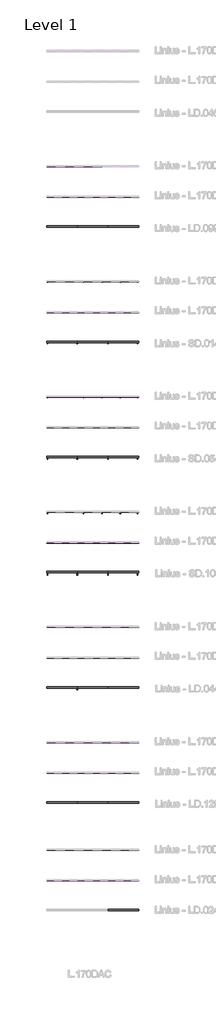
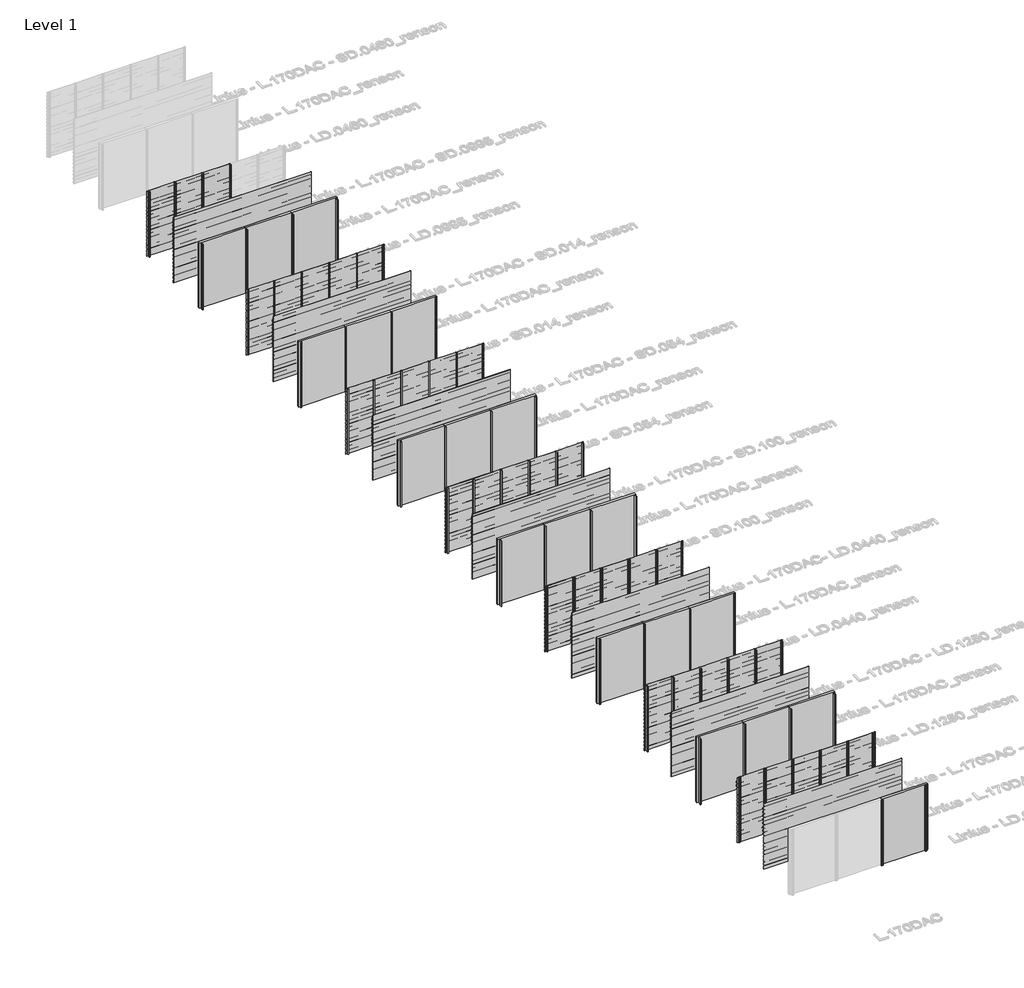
# One storey, part 3 of 121: 66 members, 59 plates.
"""IFC4 building model written with IfcOpenShell, lengths in millimetres."""

from ifc_helpers import new_model, si_unit, origin, origin_with_axes, place, context, project, spatial, polyline, outline, extrude, transform, mapped, element, save
from components import rectangular_mullion_fb497acc, rectangular_mullion_3facce28, rectangular_mullion_6cf2c509, rectangular_mullion_8b77bd57, rectangular_mullion_2c867e25, rectangular_mullion_7803f5c4, rectangular_mullion_82152e2f, rectangular_mullion_bd250e2e, rectangular_mullion_7b49c8f1, rectangular_mullion_2b84ad7e, rectangular_mullion_0fd695e7, rectangular_mullion_9b796d85, rectangular_mullion_dfb17e98, rectangular_mullion_6132f1f1, rectangular_mullion_8f153c19, rectangular_mullion_5b30f3fd, rectangular_mullion_5e0e8e0a, rectangular_mullion_d2d38772, rectangular_mullion_efb80f74, rectangular_mullion_aaa1fb1b, rectangular_mullion_ea9d012c, rectangular_mullion_c2c7736a, empty_system_panel_empty_90a97279

model = new_model("IFC4")

# Units and contexts
model_context = context("Model", 3, world=origin())
ifc_project = project(units=[si_unit("LENGTHUNIT", "METRE", prefix="MILLI")], contexts=[model_context])

# Site, building, storey
site = spatial("IfcSite", under=ifc_project)
building = spatial("IfcBuilding", under=site)
storey = spatial("IfcBuildingStorey", under=building, Name="Level 1", Elevation=0.0)

# Members
placement = place(None, origin())
rectangular_mullion_shape = rectangular_mullion_fb497acc(model_context)
element("IfcMember", 1, ObjectType="Rectangular Mullion : LD.0995_renson", at=placement, inside=storey, context=model_context, shape_type="MappedRepresentation", body=[
    mapped(rectangular_mullion_shape, transform((91866.6208097, 51483.0540136, 0.0), x_axis=(-1.0, 0.0, 0.0), y_axis=(0.0, 1.0, 0.0), z_axis=(0.0, 0.0, -1.0))),
])
element("IfcMember", 2, ObjectType="Rectangular Mullion : LD.0995_renson", at=placement, inside=storey, context=model_context, shape_type="MappedRepresentation", body=[
    mapped(rectangular_mullion_shape, transform((90666.6208099, 51483.0540136, 0.0), x_axis=(-1.0, 0.0, 0.0), y_axis=(0.0, 1.0, 0.0), z_axis=(0.0, 0.0, -1.0))),
])
element("IfcMember", 3, ObjectType="Rectangular Mullion : LD.0995_renson", at=placement, inside=storey, context=model_context, shape_type="MappedRepresentation", body=[
    mapped(rectangular_mullion_shape, transform((93466.6208096, 47483.0540136, 0.0), x_axis=(-1.0, 0.0, 0.0), y_axis=(0.0, 1.0, 0.0), z_axis=(0.0, 0.0, -1.0))),
])
element("IfcMember", 4, ObjectType="Rectangular Mullion : LD.0995_renson", at=placement, inside=storey, context=model_context, shape_type="MappedRepresentation", body=[
    mapped(rectangular_mullion_shape, transform((91466.6208098, 47483.0540136, 0.0), x_axis=(-1.0, 0.0, 0.0), y_axis=(0.0, 1.0, 0.0), z_axis=(0.0, 0.0, -1.0))),
])
element("IfcMember", 5, ObjectType="Rectangular Mullion : LD.0995_renson", at=placement, inside=storey, context=model_context, shape_type="MappedRepresentation", body=[
    mapped(rectangular_mullion_shape, transform((93066.6208096, 51483.0540136, 0.0), x_axis=(-1.0, 0.0, 0.0), y_axis=(0.0, 1.0, 0.0), z_axis=(0.0, 0.0, -1.0))),
])
rectangular_mullion_2_shape = rectangular_mullion_3facce28(model_context)
element("IfcMember", 6, ObjectType="Rectangular Mullion : SD.014_renson", at=placement, inside=storey, context=model_context, shape_type="MappedRepresentation", body=[
    mapped(rectangular_mullion_2_shape, transform((91866.6208097, 43983.0540136, 0.0), x_axis=(-1.0, 0.0, 0.0), y_axis=(0.0, 1.0, 0.0), z_axis=(0.0, 0.0, -1.0))),
])
element("IfcMember", 7, ObjectType="Rectangular Mullion : SD.014_renson", at=placement, inside=storey, context=model_context, shape_type="MappedRepresentation", body=[
    mapped(rectangular_mullion_2_shape, transform((90666.6208099, 43983.0540136, 0.0), x_axis=(-1.0, 0.0, 0.0), y_axis=(0.0, 1.0, 0.0), z_axis=(0.0, 0.0, -1.0))),
])
element("IfcMember", 8, ObjectType="Rectangular Mullion : SD.014_renson", at=placement, inside=storey, context=model_context, shape_type="MappedRepresentation", body=[
    mapped(rectangular_mullion_2_shape, transform((93466.6208096, 39983.0540136, 0.0), x_axis=(-1.0, 0.0, 0.0), y_axis=(0.0, 1.0, 0.0), z_axis=(0.0, 0.0, -1.0))),
])
element("IfcMember", 9, ObjectType="Rectangular Mullion : SD.014_renson", at=placement, inside=storey, context=model_context, shape_type="MappedRepresentation", body=[
    mapped(rectangular_mullion_2_shape, transform((91466.6208098, 39983.0540136, 0.0), x_axis=(-1.0, 0.0, 0.0), y_axis=(0.0, 1.0, 0.0), z_axis=(0.0, 0.0, -1.0))),
])
element("IfcMember", 10, ObjectType="Rectangular Mullion : SD.014_renson", at=placement, inside=storey, context=model_context, shape_type="MappedRepresentation", body=[
    mapped(rectangular_mullion_2_shape, transform((93066.6208096, 43983.0540136, 0.0), x_axis=(-1.0, 0.0, 0.0), y_axis=(0.0, 1.0, 0.0), z_axis=(0.0, 0.0, -1.0))),
])
element("IfcMember", 11, ObjectType="Rectangular Mullion : SD.014_renson", at=placement, inside=storey, context=model_context, shape_type="MappedRepresentation", body=[
    mapped(rectangular_mullion_2_shape, transform((94266.6208095, 43983.0540136, 0.0), x_axis=(-1.0, 0.0, 0.0), y_axis=(0.0, 1.0, 0.0), z_axis=(0.0, 0.0, -1.0))),
])
rectangular_mullion_3_shape = rectangular_mullion_6cf2c509(model_context)
element("IfcMember", 12, ObjectType="Rectangular Mullion : SD.054_renson", at=placement, inside=storey, context=model_context, shape_type="MappedRepresentation", body=[
    mapped(rectangular_mullion_3_shape, transform((91866.6208097, 36483.0540136, 0.0), x_axis=(-1.0, 0.0, 0.0), y_axis=(0.0, 1.0, 0.0), z_axis=(0.0, 0.0, -1.0))),
])
element("IfcMember", 13, ObjectType="Rectangular Mullion : SD.054_renson", at=placement, inside=storey, context=model_context, shape_type="MappedRepresentation", body=[
    mapped(rectangular_mullion_3_shape, transform((90666.6208099, 36483.0540136, 0.0), x_axis=(-1.0, 0.0, 0.0), y_axis=(0.0, 1.0, 0.0), z_axis=(0.0, 0.0, -1.0))),
])
element("IfcMember", 14, ObjectType="Rectangular Mullion : SD.054_renson", at=placement, inside=storey, context=model_context, shape_type="MappedRepresentation", body=[
    mapped(rectangular_mullion_3_shape, transform((93466.6208096, 32483.0540136, 0.0), x_axis=(-1.0, 0.0, 0.0), y_axis=(0.0, 1.0, 0.0), z_axis=(0.0, 0.0, -1.0))),
])
element("IfcMember", 15, ObjectType="Rectangular Mullion : SD.054_renson", at=placement, inside=storey, context=model_context, shape_type="MappedRepresentation", body=[
    mapped(rectangular_mullion_3_shape, transform((91466.6208098, 32483.0540136, 0.0), x_axis=(-1.0, 0.0, 0.0), y_axis=(0.0, 1.0, 0.0), z_axis=(0.0, 0.0, -1.0))),
])
element("IfcMember", 16, ObjectType="Rectangular Mullion : SD.054_renson", at=placement, inside=storey, context=model_context, shape_type="MappedRepresentation", body=[
    mapped(rectangular_mullion_3_shape, transform((93066.6208096, 36483.0540136, 0.0), x_axis=(-1.0, 0.0, 0.0), y_axis=(0.0, 1.0, 0.0), z_axis=(0.0, 0.0, -1.0))),
])
element("IfcMember", 17, ObjectType="Rectangular Mullion : SD.054_renson", at=placement, inside=storey, context=model_context, shape_type="MappedRepresentation", body=[
    mapped(rectangular_mullion_3_shape, transform((94266.6208095, 36483.0540136, 0.0), x_axis=(-1.0, 0.0, 0.0), y_axis=(0.0, 1.0, 0.0), z_axis=(0.0, 0.0, -1.0))),
])
rectangular_mullion_4_shape = rectangular_mullion_8b77bd57(model_context)
element("IfcMember", 18, ObjectType="Rectangular Mullion : SD.100_renson", at=placement, inside=storey, context=model_context, shape_type="MappedRepresentation", body=[
    mapped(rectangular_mullion_4_shape, transform((91866.6208097, 28983.0540136, 0.0), x_axis=(-1.0, 0.0, 0.0), y_axis=(0.0, 1.0, 0.0), z_axis=(0.0, 0.0, -1.0))),
])
element("IfcMember", 19, ObjectType="Rectangular Mullion : SD.100_renson", at=placement, inside=storey, context=model_context, shape_type="MappedRepresentation", body=[
    mapped(rectangular_mullion_4_shape, transform((90666.6208099, 28983.0540136, 0.0), x_axis=(-1.0, 0.0, 0.0), y_axis=(0.0, 1.0, 0.0), z_axis=(0.0, 0.0, -1.0))),
])
element("IfcMember", 20, ObjectType="Rectangular Mullion : SD.100_renson", at=placement, inside=storey, context=model_context, shape_type="MappedRepresentation", body=[
    mapped(rectangular_mullion_4_shape, transform((93466.6208096, 24983.0540136, 0.0), x_axis=(-1.0, 0.0, 0.0), y_axis=(0.0, 1.0, 0.0), z_axis=(0.0, 0.0, -1.0))),
])
element("IfcMember", 21, ObjectType="Rectangular Mullion : SD.100_renson", at=placement, inside=storey, context=model_context, shape_type="MappedRepresentation", body=[
    mapped(rectangular_mullion_4_shape, transform((91466.6208098, 24983.0540136, 0.0), x_axis=(-1.0, 0.0, 0.0), y_axis=(0.0, 1.0, 0.0), z_axis=(0.0, 0.0, -1.0))),
])
element("IfcMember", 22, ObjectType="Rectangular Mullion : SD.100_renson", at=placement, inside=storey, context=model_context, shape_type="MappedRepresentation", body=[
    mapped(rectangular_mullion_4_shape, transform((93066.6208096, 28983.0540136, 0.0), x_axis=(-1.0, 0.0, 0.0), y_axis=(0.0, 1.0, 0.0), z_axis=(0.0, 0.0, -1.0))),
])
element("IfcMember", 23, ObjectType="Rectangular Mullion : SD.100_renson", at=placement, inside=storey, context=model_context, shape_type="MappedRepresentation", body=[
    mapped(rectangular_mullion_4_shape, transform((94266.6208095, 28983.0540136, 0.0), x_axis=(-1.0, 0.0, 0.0), y_axis=(0.0, 1.0, 0.0), z_axis=(0.0, 0.0, -1.0))),
])
rectangular_mullion_5_shape = rectangular_mullion_2c867e25(model_context)
element("IfcMember", 24, ObjectType="Rectangular Mullion : LD.0440_renson", at=placement, inside=storey, context=model_context, shape_type="MappedRepresentation", body=[
    mapped(rectangular_mullion_5_shape, transform((93466.6208096, 17483.0540136, 0.0), x_axis=(-1.0, 0.0, 0.0), y_axis=(0.0, 1.0, 0.0), z_axis=(0.0, 0.0, -1.0))),
])
element("IfcMember", 25, ObjectType="Rectangular Mullion : LD.0440_renson", at=placement, inside=storey, context=model_context, shape_type="MappedRepresentation", body=[
    mapped(rectangular_mullion_5_shape, transform((91466.6208098, 17483.0540136, 0.0), x_axis=(-1.0, 0.0, 0.0), y_axis=(0.0, 1.0, 0.0), z_axis=(0.0, 0.0, -1.0))),
])
rectangular_mullion_6_shape = rectangular_mullion_7803f5c4(model_context)
element("IfcMember", 26, ObjectType="Rectangular Mullion : LD.1250_renson", at=placement, inside=storey, context=model_context, shape_type="MappedRepresentation", body=[
    mapped(rectangular_mullion_6_shape, transform((91866.6208097, 13983.0540136, 0.0), x_axis=(-1.0, 0.0, 0.0), y_axis=(0.0, 1.0, 0.0), z_axis=(0.0, 0.0, -1.0))),
])
element("IfcMember", 27, ObjectType="Rectangular Mullion : LD.1250_renson", at=placement, inside=storey, context=model_context, shape_type="MappedRepresentation", body=[
    mapped(rectangular_mullion_6_shape, transform((90666.6208099, 13983.0540136, 0.0), x_axis=(-1.0, 0.0, 0.0), y_axis=(0.0, 1.0, 0.0), z_axis=(0.0, 0.0, -1.0))),
])
element("IfcMember", 28, ObjectType="Rectangular Mullion : LD.1250_renson", at=placement, inside=storey, context=model_context, shape_type="MappedRepresentation", body=[
    mapped(rectangular_mullion_6_shape, transform((93466.6208096, 9983.0540136, 0.0), x_axis=(-1.0, 0.0, 0.0), y_axis=(0.0, 1.0, 0.0), z_axis=(0.0, 0.0, -1.0))),
])
element("IfcMember", 29, ObjectType="Rectangular Mullion : LD.1250_renson", at=placement, inside=storey, context=model_context, shape_type="MappedRepresentation", body=[
    mapped(rectangular_mullion_6_shape, transform((91466.6208098, 9983.0540136, 0.0), x_axis=(-1.0, 0.0, 0.0), y_axis=(0.0, 1.0, 0.0), z_axis=(0.0, 0.0, -1.0))),
])
element("IfcMember", 30, ObjectType="Rectangular Mullion : LD.1250_renson", at=placement, inside=storey, context=model_context, shape_type="MappedRepresentation", body=[
    mapped(rectangular_mullion_6_shape, transform((93066.6208096, 13983.0540136, 0.0), x_axis=(-1.0, 0.0, 0.0), y_axis=(0.0, 1.0, 0.0), z_axis=(0.0, 0.0, -1.0))),
])
element("IfcMember", 31, ObjectType="Rectangular Mullion : LD.1250_renson", at=placement, inside=storey, context=model_context, shape_type="MappedRepresentation", body=[
    mapped(rectangular_mullion_6_shape, transform((94266.6208095, 13983.0540136, 0.0), x_axis=(-1.0, 0.0, 0.0), y_axis=(0.0, 1.0, 0.0), z_axis=(0.0, 0.0, -1.0))),
])
rectangular_mullion_7_shape = rectangular_mullion_82152e2f(model_context)
element("IfcMember", 32, ObjectType="Rectangular Mullion : LD.0240_renson", at=placement, inside=storey, context=model_context, shape_type="MappedRepresentation", body=[
    mapped(rectangular_mullion_7_shape, transform((91866.6208097, 6987.0270068, 0.0), x_axis=(-1.0, 0.0, 0.0), y_axis=(0.0, 1.0, 0.0), z_axis=(0.0, 0.0, -1.0))),
])
element("IfcMember", 33, ObjectType="Rectangular Mullion : LD.0240_renson", at=placement, inside=storey, context=model_context, shape_type="MappedRepresentation", body=[
    mapped(rectangular_mullion_7_shape, transform((90666.6208099, 6987.0270068, 0.0), x_axis=(-1.0, 0.0, 0.0), y_axis=(0.0, 1.0, 0.0), z_axis=(0.0, 0.0, -1.0))),
])
element("IfcMember", 34, ObjectType="Rectangular Mullion : LD.0240_renson", at=placement, inside=storey, context=model_context, shape_type="MappedRepresentation", body=[
    mapped(rectangular_mullion_7_shape, transform((93466.6208096, 2987.0270068, 0.0), x_axis=(-1.0, 0.0, 0.0), y_axis=(0.0, 1.0, 0.0), z_axis=(0.0, 0.0, -1.0))),
])
element("IfcMember", 35, ObjectType="Rectangular Mullion : LD.0240_renson", at=placement, inside=storey, context=model_context, shape_type="MappedRepresentation", body=[
    mapped(rectangular_mullion_7_shape, transform((93066.6208096, 6987.0270068, 0.0), x_axis=(-1.0, 0.0, 0.0), y_axis=(0.0, 1.0, 0.0), z_axis=(0.0, 0.0, -1.0))),
])
element("IfcMember", 36, ObjectType="Rectangular Mullion : LD.0240_renson", at=placement, inside=storey, context=model_context, shape_type="MappedRepresentation", body=[
    mapped(rectangular_mullion_7_shape, transform((94266.6208095, 6987.0270068, 0.0), x_axis=(-1.0, 0.0, 0.0), y_axis=(0.0, 1.0, 0.0), z_axis=(0.0, 0.0, -1.0))),
])
rectangular_mullion_8_shape = rectangular_mullion_bd250e2e(model_context)
element("IfcMember", 37, ObjectType="Rectangular Mullion : LD.0995 - left_renson", at=placement, inside=storey, context=model_context, shape_type="MappedRepresentation", body=[
    mapped(rectangular_mullion_8_shape, transform((89466.6208097, 51483.0540136, 0.0), x_axis=(-1.0, 0.0, 0.0), y_axis=(0.0, 1.0, 0.0), z_axis=(0.0, 0.0, -1.0))),
])
element("IfcMember", 38, ObjectType="Rectangular Mullion : LD.0995 - left_renson", at=placement, inside=storey, context=model_context, shape_type="MappedRepresentation", body=[
    mapped(rectangular_mullion_8_shape, transform((89466.6208097, 47483.0540136, 0.0), x_axis=(-1.0, 0.0, 0.0), y_axis=(0.0, 1.0, 0.0), z_axis=(0.0, 0.0, -1.0))),
])
rectangular_mullion_9_shape = rectangular_mullion_7b49c8f1(model_context)
element("IfcMember", 39, ObjectType="Rectangular Mullion : LD.0995 - right_renson", at=placement, inside=storey, context=model_context, shape_type="MappedRepresentation", body=[
    mapped(rectangular_mullion_9_shape, transform((95466.6208097, 47483.0540136, 3000.0), x_axis=(1.0, 0.0, 0.0), y_axis=(0.0, 1.0, 0.0), z_axis=(0.0, 0.0, 1.0))),
])
rectangular_mullion_10_shape = rectangular_mullion_2b84ad7e(model_context)
element("IfcMember", 40, ObjectType="Rectangular Mullion : SD.014 - left_renson", at=placement, inside=storey, context=model_context, shape_type="MappedRepresentation", body=[
    mapped(rectangular_mullion_10_shape, transform((89466.6208097, 43983.0540136, 0.0), x_axis=(-1.0, 0.0, 0.0), y_axis=(0.0, 1.0, 0.0), z_axis=(0.0, 0.0, -1.0))),
])
element("IfcMember", 41, ObjectType="Rectangular Mullion : SD.014 - left_renson", at=placement, inside=storey, context=model_context, shape_type="MappedRepresentation", body=[
    mapped(rectangular_mullion_10_shape, transform((89466.6208097, 39983.0540136, 0.0), x_axis=(-1.0, 0.0, 0.0), y_axis=(0.0, 1.0, 0.0), z_axis=(0.0, 0.0, -1.0))),
])
rectangular_mullion_11_shape = rectangular_mullion_0fd695e7(model_context)
element("IfcMember", 42, ObjectType="Rectangular Mullion : SD.014 - right_renson", at=placement, inside=storey, context=model_context, shape_type="MappedRepresentation", body=[
    mapped(rectangular_mullion_11_shape, transform((95466.6208097, 43983.0540136, 3000.0), x_axis=(1.0, 0.0, 0.0), y_axis=(0.0, 1.0, 0.0), z_axis=(0.0, 0.0, 1.0))),
])
element("IfcMember", 43, ObjectType="Rectangular Mullion : SD.014 - right_renson", at=placement, inside=storey, context=model_context, shape_type="MappedRepresentation", body=[
    mapped(rectangular_mullion_11_shape, transform((95466.6208097, 39983.0540136, 3000.0), x_axis=(1.0, 0.0, 0.0), y_axis=(0.0, 1.0, 0.0), z_axis=(0.0, 0.0, 1.0))),
])
rectangular_mullion_12_shape = rectangular_mullion_9b796d85(model_context)
element("IfcMember", 44, ObjectType="Rectangular Mullion : SD.054 - left_renson", at=placement, inside=storey, context=model_context, shape_type="MappedRepresentation", body=[
    mapped(rectangular_mullion_12_shape, transform((89466.6208097, 36483.0540136, 0.0), x_axis=(-1.0, 0.0, 0.0), y_axis=(0.0, 1.0, 0.0), z_axis=(0.0, 0.0, -1.0))),
])
element("IfcMember", 45, ObjectType="Rectangular Mullion : SD.054 - left_renson", at=placement, inside=storey, context=model_context, shape_type="MappedRepresentation", body=[
    mapped(rectangular_mullion_12_shape, transform((89466.6208097, 32483.0540136, 0.0), x_axis=(-1.0, 0.0, 0.0), y_axis=(0.0, 1.0, 0.0), z_axis=(0.0, 0.0, -1.0))),
])
rectangular_mullion_13_shape = rectangular_mullion_dfb17e98(model_context)
element("IfcMember", 46, ObjectType="Rectangular Mullion : SD.054 - right_renson", at=placement, inside=storey, context=model_context, shape_type="MappedRepresentation", body=[
    mapped(rectangular_mullion_13_shape, transform((95466.6208097, 36483.0540136, 3000.0), x_axis=(1.0, 0.0, 0.0), y_axis=(0.0, 1.0, 0.0), z_axis=(0.0, 0.0, 1.0))),
])
element("IfcMember", 47, ObjectType="Rectangular Mullion : SD.054 - right_renson", at=placement, inside=storey, context=model_context, shape_type="MappedRepresentation", body=[
    mapped(rectangular_mullion_13_shape, transform((95466.6208097, 32483.0540136, 3000.0), x_axis=(1.0, 0.0, 0.0), y_axis=(0.0, 1.0, 0.0), z_axis=(0.0, 0.0, 1.0))),
])
rectangular_mullion_14_shape = rectangular_mullion_6132f1f1(model_context)
element("IfcMember", 48, ObjectType="Rectangular Mullion : SD.100 - left_renson", at=placement, inside=storey, context=model_context, shape_type="MappedRepresentation", body=[
    mapped(rectangular_mullion_14_shape, transform((89466.6208097, 28983.0540136, 0.0), x_axis=(-1.0, 0.0, 0.0), y_axis=(0.0, 1.0, 0.0), z_axis=(0.0, 0.0, -1.0))),
])
element("IfcMember", 49, ObjectType="Rectangular Mullion : SD.100 - left_renson", at=placement, inside=storey, context=model_context, shape_type="MappedRepresentation", body=[
    mapped(rectangular_mullion_14_shape, transform((89466.6208097, 24983.0540136, 0.0), x_axis=(-1.0, 0.0, 0.0), y_axis=(0.0, 1.0, 0.0), z_axis=(0.0, 0.0, -1.0))),
])
rectangular_mullion_15_shape = rectangular_mullion_8f153c19(model_context)
element("IfcMember", 50, ObjectType="Rectangular Mullion : SD.100 - right_renson", at=placement, inside=storey, context=model_context, shape_type="MappedRepresentation", body=[
    mapped(rectangular_mullion_15_shape, transform((95466.6208097, 28983.0540136, 3000.0), x_axis=(1.0, 0.0, 0.0), y_axis=(0.0, 1.0, 0.0), z_axis=(0.0, 0.0, 1.0))),
])
element("IfcMember", 51, ObjectType="Rectangular Mullion : SD.100 - right_renson", at=placement, inside=storey, context=model_context, shape_type="MappedRepresentation", body=[
    mapped(rectangular_mullion_15_shape, transform((95466.6208097, 24983.0540136, 3000.0), x_axis=(1.0, 0.0, 0.0), y_axis=(0.0, 1.0, 0.0), z_axis=(0.0, 0.0, 1.0))),
])
rectangular_mullion_16_shape = rectangular_mullion_5b30f3fd(model_context)
element("IfcMember", 52, ObjectType="Rectangular Mullion : LD.0440 - left_renson", at=placement, inside=storey, context=model_context, shape_type="MappedRepresentation", body=[
    mapped(rectangular_mullion_16_shape, transform((89466.6208097, 21483.0540136, 0.0), x_axis=(-1.0, 0.0, 0.0), y_axis=(0.0, 1.0, 0.0), z_axis=(0.0, 0.0, -1.0))),
])
element("IfcMember", 53, ObjectType="Rectangular Mullion : LD.0440 - left_renson", at=placement, inside=storey, context=model_context, shape_type="MappedRepresentation", body=[
    mapped(rectangular_mullion_16_shape, transform((89466.6208097, 17483.0540136, 0.0), x_axis=(-1.0, 0.0, 0.0), y_axis=(0.0, 1.0, 0.0), z_axis=(0.0, 0.0, -1.0))),
])
rectangular_mullion_17_shape = rectangular_mullion_5e0e8e0a(model_context)
element("IfcMember", 54, ObjectType="Rectangular Mullion : LD.0440 - right_renson", at=placement, inside=storey, context=model_context, shape_type="MappedRepresentation", body=[
    mapped(rectangular_mullion_17_shape, transform((95466.6208097, 21483.0540136, 3000.0), x_axis=(1.0, 0.0, 0.0), y_axis=(0.0, 1.0, 0.0), z_axis=(0.0, 0.0, 1.0))),
])
element("IfcMember", 55, ObjectType="Rectangular Mullion : LD.0440 - right_renson", at=placement, inside=storey, context=model_context, shape_type="MappedRepresentation", body=[
    mapped(rectangular_mullion_17_shape, transform((95466.6208097, 17483.0540136, 3000.0), x_axis=(1.0, 0.0, 0.0), y_axis=(0.0, 1.0, 0.0), z_axis=(0.0, 0.0, 1.0))),
])
rectangular_mullion_18_shape = rectangular_mullion_d2d38772(model_context)
element("IfcMember", 56, ObjectType="Rectangular Mullion : LD.1250 - left_renson", at=placement, inside=storey, context=model_context, shape_type="MappedRepresentation", body=[
    mapped(rectangular_mullion_18_shape, transform((89466.6208097, 13983.0540136, 0.0), x_axis=(-1.0, 0.0, 0.0), y_axis=(0.0, 1.0, 0.0), z_axis=(0.0, 0.0, -1.0))),
])
element("IfcMember", 57, ObjectType="Rectangular Mullion : LD.1250 - left_renson", at=placement, inside=storey, context=model_context, shape_type="MappedRepresentation", body=[
    mapped(rectangular_mullion_18_shape, transform((89466.6208097, 9983.0540136, 0.0), x_axis=(-1.0, 0.0, 0.0), y_axis=(0.0, 1.0, 0.0), z_axis=(0.0, 0.0, -1.0))),
])
rectangular_mullion_19_shape = rectangular_mullion_efb80f74(model_context)
element("IfcMember", 58, ObjectType="Rectangular Mullion : LD.1250 - right_renson", at=placement, inside=storey, context=model_context, shape_type="MappedRepresentation", body=[
    mapped(rectangular_mullion_19_shape, transform((95466.6208097, 13983.0540136, 3000.0), x_axis=(1.0, 0.0, 0.0), y_axis=(0.0, 1.0, 0.0), z_axis=(0.0, 0.0, 1.0))),
])
element("IfcMember", 59, ObjectType="Rectangular Mullion : LD.1250 - right_renson", at=placement, inside=storey, context=model_context, shape_type="MappedRepresentation", body=[
    mapped(rectangular_mullion_19_shape, transform((95466.6208097, 9983.0540136, 3000.0), x_axis=(1.0, 0.0, 0.0), y_axis=(0.0, 1.0, 0.0), z_axis=(0.0, 0.0, 1.0))),
])
rectangular_mullion_20_shape = rectangular_mullion_aaa1fb1b(model_context)
element("IfcMember", 60, ObjectType="Rectangular Mullion : LD.0240 - left_renson", at=placement, inside=storey, context=model_context, shape_type="MappedRepresentation", body=[
    mapped(rectangular_mullion_20_shape, transform((89466.6208097, 6987.0270068, 0.0), x_axis=(-1.0, 0.0, 0.0), y_axis=(0.0, 1.0, 0.0), z_axis=(0.0, 0.0, -1.0))),
])
rectangular_mullion_21_shape = rectangular_mullion_ea9d012c(model_context)
element("IfcMember", 61, ObjectType="Rectangular Mullion : LD.0240 - right_renson", at=placement, inside=storey, context=model_context, shape_type="MappedRepresentation", body=[
    mapped(rectangular_mullion_21_shape, transform((95466.6208097, 6987.0270068, 3000.0), x_axis=(1.0, 0.0, 0.0), y_axis=(0.0, 1.0, 0.0), z_axis=(0.0, 0.0, 1.0))),
])
element("IfcMember", 62, ObjectType="Rectangular Mullion : LD.0240 - right_renson", at=placement, inside=storey, context=model_context, shape_type="MappedRepresentation", body=[
    mapped(rectangular_mullion_21_shape, transform((95466.6208097, 2987.0270068, 3000.0), x_axis=(1.0, 0.0, 0.0), y_axis=(0.0, 1.0, 0.0), z_axis=(0.0, 0.0, 1.0))),
])
rectangular_mullion_22_shape = rectangular_mullion_c2c7736a(model_context)
element("IfcMember", 63, ObjectType="Rectangular Mullion : LD.0460 - left_renson", at=placement, inside=storey, context=model_context, shape_type="MappedRepresentation", body=[
    mapped(rectangular_mullion_22_shape, transform((91866.6208097, 21483.0540136, 0.0), x_axis=(-1.0, 0.0, 0.0), y_axis=(0.0, 1.0, 0.0), z_axis=(0.0, 0.0, -1.0))),
])
element("IfcMember", 64, ObjectType="Rectangular Mullion : LD.0460 - left_renson", at=placement, inside=storey, context=model_context, shape_type="MappedRepresentation", body=[
    mapped(rectangular_mullion_22_shape, transform((90666.6208099, 21483.0540136, 0.0), x_axis=(-1.0, 0.0, 0.0), y_axis=(0.0, 1.0, 0.0), z_axis=(0.0, 0.0, -1.0))),
])
element("IfcMember", 65, ObjectType="Rectangular Mullion : LD.0460 - left_renson", at=placement, inside=storey, context=model_context, shape_type="MappedRepresentation", body=[
    mapped(rectangular_mullion_22_shape, transform((93066.6208096, 21483.0540136, 0.0), x_axis=(-1.0, 0.0, 0.0), y_axis=(0.0, 1.0, 0.0), z_axis=(0.0, 0.0, -1.0))),
])
element("IfcMember", 66, ObjectType="Rectangular Mullion : LD.0460 - left_renson", at=placement, inside=storey, context=model_context, shape_type="MappedRepresentation", body=[
    mapped(rectangular_mullion_22_shape, transform((94266.6208095, 21483.0540136, 0.0), x_axis=(-1.0, 0.0, 0.0), y_axis=(0.0, 1.0, 0.0), z_axis=(0.0, 0.0, -1.0))),
])

# Plates
element("IfcPlate", 67, ObjectType="Linius - L.170DAC_renson", at=placement, inside=storey, context=model_context, shape_type="SweptSolid", body=[
    extrude(outline(polyline([(89466.6208097, 51484.0540136), (90666.6208099, 51484.0540136), (90666.6208099, 51482.0540136), (89466.6208097, 51482.0540136), (89466.6208097, 51484.0540136)])), origin_with_axes(), (0.0, 0.0, 1.0), 3000.0),
])
element("IfcPlate", 68, ObjectType="Linius - L.170DAC_renson", at=placement, inside=storey, context=model_context, shape_type="SweptSolid", body=[
    extrude(outline(polyline([(90666.6208099, 51484.0540136), (91866.6208097, 51484.0540136), (91866.6208097, 51482.0540136), (90666.6208099, 51482.0540136), (90666.6208099, 51484.0540136)])), origin_with_axes(), (0.0, 0.0, 1.0), 3000.0),
])
element("IfcPlate", 69, ObjectType="Linius - L.170DAC_renson", at=placement, inside=storey, context=model_context, shape_type="SweptSolid", body=[
    extrude(outline(polyline([(89466.6208097, 49484.0540136), (95466.6208097, 49484.0540136), (95466.6208097, 49482.0540136), (89466.6208097, 49482.0540136), (89466.6208097, 49484.0540136)])), origin_with_axes(), (0.0, 0.0, 1.0), 3000.0),
])
element("IfcPlate", 70, ObjectType="Linius - L.170DAC_renson", at=placement, inside=storey, context=model_context, shape_type="SweptSolid", body=[
    extrude(outline(polyline([(89466.6208097, 43984.0540136), (90666.6208099, 43984.0540136), (90666.6208099, 43982.0540136), (89466.6208097, 43982.0540136), (89466.6208097, 43984.0540136)])), origin_with_axes(), (0.0, 0.0, 1.0), 3000.0),
])
element("IfcPlate", 71, ObjectType="Linius - L.170DAC_renson", at=placement, inside=storey, context=model_context, shape_type="SweptSolid", body=[
    extrude(outline(polyline([(90666.6208099, 43984.0540136), (91866.6208097, 43984.0540136), (91866.6208097, 43982.0540136), (90666.6208099, 43982.0540136), (90666.6208099, 43984.0540136)])), origin_with_axes(), (0.0, 0.0, 1.0), 3000.0),
])
element("IfcPlate", 72, ObjectType="Linius - L.170DAC_renson", at=placement, inside=storey, context=model_context, shape_type="SweptSolid", body=[
    extrude(outline(polyline([(94266.6208095, 43984.0540136), (95466.6208097, 43984.0540136), (95466.6208097, 43982.0540136), (94266.6208095, 43982.0540136), (94266.6208095, 43984.0540136)])), origin_with_axes(), (0.0, 0.0, 1.0), 3000.0),
])
element("IfcPlate", 73, ObjectType="Linius - L.170DAC_renson", at=placement, inside=storey, context=model_context, shape_type="SweptSolid", body=[
    extrude(outline(polyline([(89466.6208097, 41984.0540136), (95466.6208097, 41984.0540136), (95466.6208097, 41982.0540136), (89466.6208097, 41982.0540136), (89466.6208097, 41984.0540136)])), origin_with_axes(), (0.0, 0.0, 1.0), 3000.0),
])
element("IfcPlate", 74, ObjectType="Linius - L.170DAC_renson", at=placement, inside=storey, context=model_context, shape_type="SweptSolid", body=[
    extrude(outline(polyline([(89466.6208097, 36484.0540136), (90666.6208099, 36484.0540136), (90666.6208099, 36482.0540136), (89466.6208097, 36482.0540136), (89466.6208097, 36484.0540136)])), origin_with_axes(), (0.0, 0.0, 1.0), 3000.0),
])
element("IfcPlate", 75, ObjectType="Linius - L.170DAC_renson", at=placement, inside=storey, context=model_context, shape_type="SweptSolid", body=[
    extrude(outline(polyline([(90666.6208099, 36484.0540136), (91866.6208097, 36484.0540136), (91866.6208097, 36482.0540136), (90666.6208099, 36482.0540136), (90666.6208099, 36484.0540136)])), origin_with_axes(), (0.0, 0.0, 1.0), 3000.0),
])
element("IfcPlate", 76, ObjectType="Linius - L.170DAC_renson", at=placement, inside=storey, context=model_context, shape_type="SweptSolid", body=[
    extrude(outline(polyline([(94266.6208095, 36484.0540136), (95466.6208097, 36484.0540136), (95466.6208097, 36482.0540136), (94266.6208095, 36482.0540136), (94266.6208095, 36484.0540136)])), origin_with_axes(), (0.0, 0.0, 1.0), 3000.0),
])
element("IfcPlate", 77, ObjectType="Linius - L.170DAC_renson", at=placement, inside=storey, context=model_context, shape_type="SweptSolid", body=[
    extrude(outline(polyline([(89466.6208097, 34484.0540136), (95466.6208097, 34484.0540136), (95466.6208097, 34482.0540136), (89466.6208097, 34482.0540136), (89466.6208097, 34484.0540136)])), origin_with_axes(), (0.0, 0.0, 1.0), 3000.0),
])
element("IfcPlate", 78, ObjectType="Linius - L.170DAC_renson", at=placement, inside=storey, context=model_context, shape_type="SweptSolid", body=[
    extrude(outline(polyline([(89466.6208097, 28984.0540136), (90666.6208099, 28984.0540136), (90666.6208099, 28982.0540136), (89466.6208097, 28982.0540136), (89466.6208097, 28984.0540136)])), origin_with_axes(), (0.0, 0.0, 1.0), 3000.0),
])
element("IfcPlate", 79, ObjectType="Linius - L.170DAC_renson", at=placement, inside=storey, context=model_context, shape_type="SweptSolid", body=[
    extrude(outline(polyline([(90666.6208099, 28984.0540136), (91866.6208097, 28984.0540136), (91866.6208097, 28982.0540136), (90666.6208099, 28982.0540136), (90666.6208099, 28984.0540136)])), origin_with_axes(), (0.0, 0.0, 1.0), 3000.0),
])
element("IfcPlate", 80, ObjectType="Linius - L.170DAC_renson", at=placement, inside=storey, context=model_context, shape_type="SweptSolid", body=[
    extrude(outline(polyline([(94266.6208095, 28984.0540136), (95466.6208097, 28984.0540136), (95466.6208097, 28982.0540136), (94266.6208095, 28982.0540136), (94266.6208095, 28984.0540136)])), origin_with_axes(), (0.0, 0.0, 1.0), 3000.0),
])
element("IfcPlate", 81, ObjectType="Linius - L.170DAC_renson", at=placement, inside=storey, context=model_context, shape_type="SweptSolid", body=[
    extrude(outline(polyline([(89466.6208097, 26984.0540136), (95466.6208097, 26984.0540136), (95466.6208097, 26982.0540136), (89466.6208097, 26982.0540136), (89466.6208097, 26984.0540136)])), origin_with_axes(), (0.0, 0.0, 1.0), 3000.0),
])
element("IfcPlate", 82, ObjectType="Linius - L.170DAC_renson", at=placement, inside=storey, context=model_context, shape_type="SweptSolid", body=[
    extrude(outline(polyline([(89466.6208097, 21484.0540136), (90666.6208099, 21484.0540136), (90666.6208099, 21482.0540136), (89466.6208097, 21482.0540136), (89466.6208097, 21484.0540136)])), origin_with_axes(), (0.0, 0.0, 1.0), 3000.0),
])
element("IfcPlate", 83, ObjectType="Linius - L.170DAC_renson", at=placement, inside=storey, context=model_context, shape_type="SweptSolid", body=[
    extrude(outline(polyline([(90666.6208099, 21484.0540136), (91866.6208097, 21484.0540136), (91866.6208097, 21482.0540136), (90666.6208099, 21482.0540136), (90666.6208099, 21484.0540136)])), origin_with_axes(), (0.0, 0.0, 1.0), 3000.0),
])
element("IfcPlate", 84, ObjectType="Linius - L.170DAC_renson", at=placement, inside=storey, context=model_context, shape_type="SweptSolid", body=[
    extrude(outline(polyline([(94266.6208095, 21484.0540136), (95466.6208097, 21484.0540136), (95466.6208097, 21482.0540136), (94266.6208095, 21482.0540136), (94266.6208095, 21484.0540136)])), origin_with_axes(), (0.0, 0.0, 1.0), 3000.0),
])
element("IfcPlate", 85, ObjectType="Linius - L.170DAC_renson", at=placement, inside=storey, context=model_context, shape_type="SweptSolid", body=[
    extrude(outline(polyline([(89466.6208097, 19484.0540136), (95466.6208097, 19484.0540136), (95466.6208097, 19482.0540136), (89466.6208097, 19482.0540136), (89466.6208097, 19484.0540136)])), origin_with_axes(), (0.0, 0.0, 1.0), 3000.0),
])
element("IfcPlate", 86, ObjectType="Linius - L.170DAC_renson", at=placement, inside=storey, context=model_context, shape_type="SweptSolid", body=[
    extrude(outline(polyline([(89466.6208097, 13984.0540136), (90666.6208099, 13984.0540136), (90666.6208099, 13982.0540136), (89466.6208097, 13982.0540136), (89466.6208097, 13984.0540136)])), origin_with_axes(), (0.0, 0.0, 1.0), 3000.0),
])
element("IfcPlate", 87, ObjectType="Linius - L.170DAC_renson", at=placement, inside=storey, context=model_context, shape_type="SweptSolid", body=[
    extrude(outline(polyline([(90666.6208099, 13984.0540136), (91866.6208097, 13984.0540136), (91866.6208097, 13982.0540136), (90666.6208099, 13982.0540136), (90666.6208099, 13984.0540136)])), origin_with_axes(), (0.0, 0.0, 1.0), 3000.0),
])
element("IfcPlate", 88, ObjectType="Linius - L.170DAC_renson", at=placement, inside=storey, context=model_context, shape_type="SweptSolid", body=[
    extrude(outline(polyline([(94266.6208095, 13984.0540136), (95466.6208097, 13984.0540136), (95466.6208097, 13982.0540136), (94266.6208095, 13982.0540136), (94266.6208095, 13984.0540136)])), origin_with_axes(), (0.0, 0.0, 1.0), 3000.0),
])
element("IfcPlate", 89, ObjectType="Linius - L.170DAC_renson", at=placement, inside=storey, context=model_context, shape_type="SweptSolid", body=[
    extrude(outline(polyline([(89466.6208097, 11984.0540136), (95466.6208097, 11984.0540136), (95466.6208097, 11982.0540136), (89466.6208097, 11982.0540136), (89466.6208097, 11984.0540136)])), origin_with_axes(), (0.0, 0.0, 1.0), 3000.0),
])
element("IfcPlate", 90, ObjectType="Linius - L.170DAC_renson", at=placement, inside=storey, context=model_context, shape_type="SweptSolid", body=[
    extrude(outline(polyline([(89466.6208097, 6988.0270068), (90666.6208099, 6988.0270068), (90666.6208099, 6986.0270068), (89466.6208097, 6986.0270068), (89466.6208097, 6988.0270068)])), origin_with_axes(), (0.0, 0.0, 1.0), 3000.0),
])
element("IfcPlate", 91, ObjectType="Linius - L.170DAC_renson", at=placement, inside=storey, context=model_context, shape_type="SweptSolid", body=[
    extrude(outline(polyline([(90666.6208099, 6988.0270068), (91866.6208097, 6988.0270068), (91866.6208097, 6986.0270068), (90666.6208099, 6986.0270068), (90666.6208099, 6988.0270068)])), origin_with_axes(), (0.0, 0.0, 1.0), 3000.0),
])
element("IfcPlate", 92, ObjectType="Linius - L.170DAC_renson", at=placement, inside=storey, context=model_context, shape_type="SweptSolid", body=[
    extrude(outline(polyline([(94266.6208095, 6988.0270068), (95466.6208097, 6988.0270068), (95466.6208097, 6986.0270068), (94266.6208095, 6986.0270068), (94266.6208095, 6988.0270068)])), origin_with_axes(), (0.0, 0.0, 1.0), 3000.0),
])
element("IfcPlate", 93, ObjectType="Linius - L.170DAC_renson", at=placement, inside=storey, context=model_context, shape_type="SweptSolid", body=[
    extrude(outline(polyline([(89466.6208097, 4988.0270068), (95466.6208097, 4988.0270068), (95466.6208097, 4986.0270068), (89466.6208097, 4986.0270068), (89466.6208097, 4988.0270068)])), origin_with_axes(), (0.0, 0.0, 1.0), 3000.0),
])
element("IfcPlate", 94, ObjectType="Linius - L.170DAC_renson", at=placement, inside=storey, context=model_context, shape_type="SweptSolid", body=[
    extrude(outline(polyline([(91866.6208097, 6988.0270068), (93066.6208096, 6988.0270068), (93066.6208096, 6986.0270068), (91866.6208097, 6986.0270068), (91866.6208097, 6988.0270068)])), origin_with_axes(), (0.0, 0.0, 1.0), 3000.0),
])
element("IfcPlate", 95, ObjectType="Linius - L.170DAC_renson", at=placement, inside=storey, context=model_context, shape_type="SweptSolid", body=[
    extrude(outline(polyline([(93066.6208096, 6988.0270068), (94266.6208095, 6988.0270068), (94266.6208095, 6986.0270068), (93066.6208096, 6986.0270068), (93066.6208096, 6988.0270068)])), origin_with_axes(), (0.0, 0.0, 1.0), 3000.0),
])
element("IfcPlate", 96, ObjectType="Linius - L.170DAC_renson", at=placement, inside=storey, context=model_context, shape_type="SweptSolid", body=[
    extrude(outline(polyline([(91866.6208097, 21484.0540136), (93066.6208096, 21484.0540136), (93066.6208096, 21482.0540136), (91866.6208097, 21482.0540136), (91866.6208097, 21484.0540136)])), origin_with_axes(), (0.0, 0.0, 1.0), 3000.0),
])
element("IfcPlate", 97, ObjectType="Linius - L.170DAC_renson", at=placement, inside=storey, context=model_context, shape_type="SweptSolid", body=[
    extrude(outline(polyline([(93066.6208096, 21484.0540136), (94266.6208095, 21484.0540136), (94266.6208095, 21482.0540136), (93066.6208096, 21482.0540136), (93066.6208096, 21484.0540136)])), origin_with_axes(), (0.0, 0.0, 1.0), 3000.0),
])
element("IfcPlate", 98, ObjectType="Linius - L.170DAC_renson", at=placement, inside=storey, context=model_context, shape_type="SweptSolid", body=[
    extrude(outline(polyline([(91866.6208097, 51484.0540136), (93066.6208096, 51484.0540136), (93066.6208096, 51482.0540136), (91866.6208097, 51482.0540136), (91866.6208097, 51484.0540136)])), origin_with_axes(), (0.0, 0.0, 1.0), 3000.0),
])
element("IfcPlate", 99, ObjectType="Linius - L.170DAC_renson", at=placement, inside=storey, context=model_context, shape_type="SweptSolid", body=[
    extrude(outline(polyline([(91866.6208097, 13984.0540136), (93066.6208096, 13984.0540136), (93066.6208096, 13982.0540136), (91866.6208097, 13982.0540136), (91866.6208097, 13984.0540136)])), origin_with_axes(), (0.0, 0.0, 1.0), 3000.0),
])
element("IfcPlate", 100, ObjectType="Linius - L.170DAC_renson", at=placement, inside=storey, context=model_context, shape_type="SweptSolid", body=[
    extrude(outline(polyline([(93066.6208096, 13984.0540136), (94266.6208095, 13984.0540136), (94266.6208095, 13982.0540136), (93066.6208096, 13982.0540136), (93066.6208096, 13984.0540136)])), origin_with_axes(), (0.0, 0.0, 1.0), 3000.0),
])
element("IfcPlate", 101, ObjectType="Linius - L.170DAC_renson", at=placement, inside=storey, context=model_context, shape_type="SweptSolid", body=[
    extrude(outline(polyline([(91866.6208097, 43984.0540136), (93066.6208096, 43984.0540136), (93066.6208096, 43982.0540136), (91866.6208097, 43982.0540136), (91866.6208097, 43984.0540136)])), origin_with_axes(), (0.0, 0.0, 1.0), 3000.0),
])
element("IfcPlate", 102, ObjectType="Linius - L.170DAC_renson", at=placement, inside=storey, context=model_context, shape_type="SweptSolid", body=[
    extrude(outline(polyline([(93066.6208096, 43984.0540136), (94266.6208095, 43984.0540136), (94266.6208095, 43982.0540136), (93066.6208096, 43982.0540136), (93066.6208096, 43984.0540136)])), origin_with_axes(), (0.0, 0.0, 1.0), 3000.0),
])
element("IfcPlate", 103, ObjectType="Linius - L.170DAC_renson", at=placement, inside=storey, context=model_context, shape_type="SweptSolid", body=[
    extrude(outline(polyline([(91866.6208097, 36484.0540136), (93066.6208096, 36484.0540136), (93066.6208096, 36482.0540136), (91866.6208097, 36482.0540136), (91866.6208097, 36484.0540136)])), origin_with_axes(), (0.0, 0.0, 1.0), 3000.0),
])
element("IfcPlate", 104, ObjectType="Linius - L.170DAC_renson", at=placement, inside=storey, context=model_context, shape_type="SweptSolid", body=[
    extrude(outline(polyline([(93066.6208096, 36484.0540136), (94266.6208095, 36484.0540136), (94266.6208095, 36482.0540136), (93066.6208096, 36482.0540136), (93066.6208096, 36484.0540136)])), origin_with_axes(), (0.0, 0.0, 1.0), 3000.0),
])
element("IfcPlate", 105, ObjectType="Linius - L.170DAC_renson", at=placement, inside=storey, context=model_context, shape_type="SweptSolid", body=[
    extrude(outline(polyline([(91866.6208097, 28984.0540136), (93066.6208096, 28984.0540136), (93066.6208096, 28982.0540136), (91866.6208097, 28982.0540136), (91866.6208097, 28984.0540136)])), origin_with_axes(), (0.0, 0.0, 1.0), 3000.0),
])
element("IfcPlate", 106, ObjectType="Linius - L.170DAC_renson", at=placement, inside=storey, context=model_context, shape_type="SweptSolid", body=[
    extrude(outline(polyline([(93066.6208096, 28984.0540136), (94266.6208095, 28984.0540136), (94266.6208095, 28982.0540136), (93066.6208096, 28982.0540136), (93066.6208096, 28984.0540136)])), origin_with_axes(), (0.0, 0.0, 1.0), 3000.0),
])
empty_system_panel_empty_shape = empty_system_panel_empty_90a97279(model_context)
element("IfcPlate", 107, ObjectType="Empty System Panel : Empty", at=placement, inside=storey, context=model_context, shape_type="MappedRepresentation", body=[
    mapped(empty_system_panel_empty_shape, transform((94466.6208096, 47483.0540136, 0.0), x_axis=(-1.0, 0.0, 0.0), y_axis=(0.0, -1.0, 0.0), z_axis=(0.0, 0.0, 1.0))),
])
element("IfcPlate", 108, ObjectType="Empty System Panel : Empty", at=placement, inside=storey, context=model_context, shape_type="MappedRepresentation", body=[
    mapped(empty_system_panel_empty_shape, transform((94466.6208096, 39983.0540136, 0.0), x_axis=(-1.0, 0.0, 0.0), y_axis=(0.0, -1.0, 0.0), z_axis=(0.0, 0.0, 1.0))),
])
element("IfcPlate", 109, ObjectType="Empty System Panel : Empty", at=placement, inside=storey, context=model_context, shape_type="MappedRepresentation", body=[
    mapped(empty_system_panel_empty_shape, transform((94466.6208096, 32483.0540136, 0.0), x_axis=(-1.0, 0.0, 0.0), y_axis=(0.0, -1.0, 0.0), z_axis=(0.0, 0.0, 1.0))),
])
element("IfcPlate", 110, ObjectType="Empty System Panel : Empty", at=placement, inside=storey, context=model_context, shape_type="MappedRepresentation", body=[
    mapped(empty_system_panel_empty_shape, transform((94466.6208096, 24983.0540136, 0.0), x_axis=(-1.0, 0.0, 0.0), y_axis=(0.0, -1.0, 0.0), z_axis=(0.0, 0.0, 1.0))),
])
element("IfcPlate", 111, ObjectType="Empty System Panel : Empty", at=placement, inside=storey, context=model_context, shape_type="MappedRepresentation", body=[
    mapped(empty_system_panel_empty_shape, transform((94466.6208096, 17483.0540136, 0.0), x_axis=(-1.0, 0.0, 0.0), y_axis=(0.0, -1.0, 0.0), z_axis=(0.0, 0.0, 1.0))),
])
element("IfcPlate", 112, ObjectType="Empty System Panel : Empty", at=placement, inside=storey, context=model_context, shape_type="MappedRepresentation", body=[
    mapped(empty_system_panel_empty_shape, transform((94466.6208096, 9983.0540136, 0.0), x_axis=(-1.0, 0.0, 0.0), y_axis=(0.0, -1.0, 0.0), z_axis=(0.0, 0.0, 1.0))),
])
element("IfcPlate", 113, ObjectType="Empty System Panel : Empty", at=placement, inside=storey, context=model_context, shape_type="MappedRepresentation", body=[
    mapped(empty_system_panel_empty_shape, transform((94466.6208096, 2987.0270068, 0.0), x_axis=(-1.0, 0.0, 0.0), y_axis=(0.0, -1.0, 0.0), z_axis=(0.0, 0.0, 1.0))),
])
element("IfcPlate", 114, ObjectType="Empty System Panel : Empty", at=placement, inside=storey, context=model_context, shape_type="MappedRepresentation", body=[
    mapped(empty_system_panel_empty_shape, transform((92466.6208097, 47483.0540136, 0.0), x_axis=(-1.0, 0.0, 0.0), y_axis=(0.0, -1.0, 0.0), z_axis=(0.0, 0.0, 1.0))),
])
element("IfcPlate", 115, ObjectType="Empty System Panel : Empty", at=placement, inside=storey, context=model_context, shape_type="MappedRepresentation", body=[
    mapped(empty_system_panel_empty_shape, transform((90466.6208097, 47483.0540136, 0.0), x_axis=(-1.0, 0.0, 0.0), y_axis=(0.0, -1.0, 0.0), z_axis=(0.0, 0.0, 1.0))),
])
element("IfcPlate", 116, ObjectType="Empty System Panel : Empty", at=placement, inside=storey, context=model_context, shape_type="MappedRepresentation", body=[
    mapped(empty_system_panel_empty_shape, transform((92466.6208097, 39983.0540136, 0.0), x_axis=(-1.0, 0.0, 0.0), y_axis=(0.0, -1.0, 0.0), z_axis=(0.0, 0.0, 1.0))),
])
element("IfcPlate", 117, ObjectType="Empty System Panel : Empty", at=placement, inside=storey, context=model_context, shape_type="MappedRepresentation", body=[
    mapped(empty_system_panel_empty_shape, transform((90466.6208097, 39983.0540136, 0.0), x_axis=(-1.0, 0.0, 0.0), y_axis=(0.0, -1.0, 0.0), z_axis=(0.0, 0.0, 1.0))),
])
element("IfcPlate", 118, ObjectType="Empty System Panel : Empty", at=placement, inside=storey, context=model_context, shape_type="MappedRepresentation", body=[
    mapped(empty_system_panel_empty_shape, transform((92466.6208097, 32483.0540136, 0.0), x_axis=(-1.0, 0.0, 0.0), y_axis=(0.0, -1.0, 0.0), z_axis=(0.0, 0.0, 1.0))),
])
element("IfcPlate", 119, ObjectType="Empty System Panel : Empty", at=placement, inside=storey, context=model_context, shape_type="MappedRepresentation", body=[
    mapped(empty_system_panel_empty_shape, transform((90466.6208097, 32483.0540136, 0.0), x_axis=(-1.0, 0.0, 0.0), y_axis=(0.0, -1.0, 0.0), z_axis=(0.0, 0.0, 1.0))),
])
element("IfcPlate", 120, ObjectType="Empty System Panel : Empty", at=placement, inside=storey, context=model_context, shape_type="MappedRepresentation", body=[
    mapped(empty_system_panel_empty_shape, transform((92466.6208097, 24983.0540136, 0.0), x_axis=(-1.0, 0.0, 0.0), y_axis=(0.0, -1.0, 0.0), z_axis=(0.0, 0.0, 1.0))),
])
element("IfcPlate", 121, ObjectType="Empty System Panel : Empty", at=placement, inside=storey, context=model_context, shape_type="MappedRepresentation", body=[
    mapped(empty_system_panel_empty_shape, transform((90466.6208097, 24983.0540136, 0.0), x_axis=(-1.0, 0.0, 0.0), y_axis=(0.0, -1.0, 0.0), z_axis=(0.0, 0.0, 1.0))),
])
element("IfcPlate", 122, ObjectType="Empty System Panel : Empty", at=placement, inside=storey, context=model_context, shape_type="MappedRepresentation", body=[
    mapped(empty_system_panel_empty_shape, transform((92466.6208097, 17483.0540136, 0.0), x_axis=(-1.0, 0.0, 0.0), y_axis=(0.0, -1.0, 0.0), z_axis=(0.0, 0.0, 1.0))),
])
element("IfcPlate", 123, ObjectType="Empty System Panel : Empty", at=placement, inside=storey, context=model_context, shape_type="MappedRepresentation", body=[
    mapped(empty_system_panel_empty_shape, transform((90466.6208097, 17483.0540136, 0.0), x_axis=(-1.0, 0.0, 0.0), y_axis=(0.0, -1.0, 0.0), z_axis=(0.0, 0.0, 1.0))),
])
element("IfcPlate", 124, ObjectType="Empty System Panel : Empty", at=placement, inside=storey, context=model_context, shape_type="MappedRepresentation", body=[
    mapped(empty_system_panel_empty_shape, transform((92466.6208097, 9983.0540136, 0.0), x_axis=(-1.0, 0.0, 0.0), y_axis=(0.0, -1.0, 0.0), z_axis=(0.0, 0.0, 1.0))),
])
element("IfcPlate", 125, ObjectType="Empty System Panel : Empty", at=placement, inside=storey, context=model_context, shape_type="MappedRepresentation", body=[
    mapped(empty_system_panel_empty_shape, transform((90466.6208097, 9983.0540136, 0.0), x_axis=(-1.0, 0.0, 0.0), y_axis=(0.0, -1.0, 0.0), z_axis=(0.0, 0.0, 1.0))),
])

save(model, "model.ifc")
